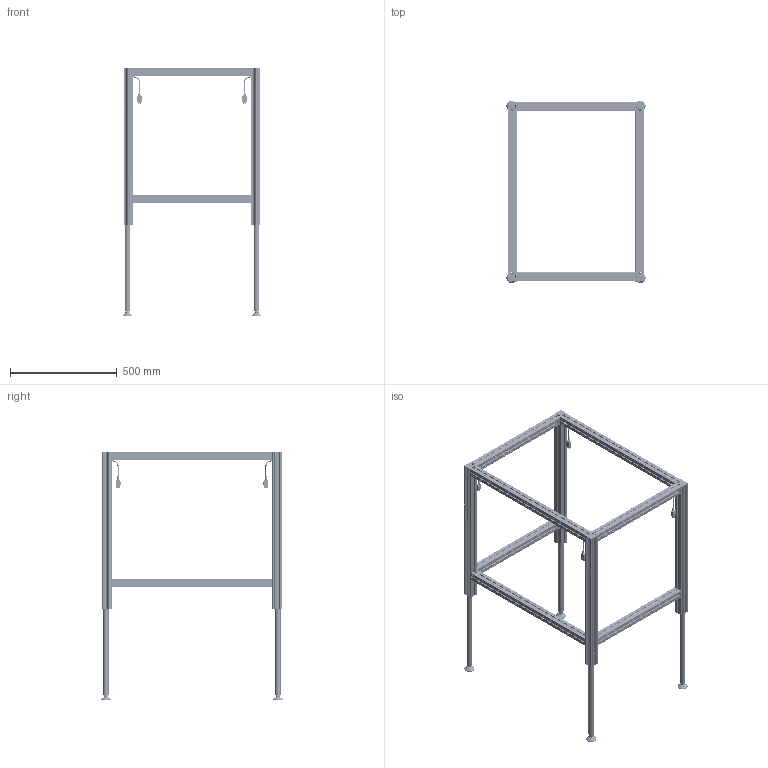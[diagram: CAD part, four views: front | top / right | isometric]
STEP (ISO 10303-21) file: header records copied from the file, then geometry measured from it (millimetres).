
FILE_DESCRIPTION(/* description */ ('Unknown'),/* implementation_level */ '2;1');
FILE_NAME(/* name */ 'Untergestell SQ.3 4340 795 XX XX_00-Ausgefahren',/* time_stamp */ '2022-02-04T13:25:58+01:00',/* author */ ('Unknown'),/* organization */ ('Unknown'),/* preprocessor_version */ 'ST-DEVELOPER v18.1',/* originating_system */ 'Solid Edge',/* authorisation */ 'Unknown');
FILE_SCHEMA (('AUTOMOTIVE_DESIGN {1 0 10303 214 3 1 1}'));
Products named in the file (21): Untergestell SQ.3 4340 795 XX XX; 907.02004_oa_0; 142.00014; 119.00501; 122.00005; 142.00020; 123.00111; 125.00051; 128.00040; Kabel Molex; 907.02004_oa_1; 115.00100; 119.00190; 142.00210; 113.00006; 113.00006-ohne Mutter; Mutter M10; 907.02004_oa_2; 907.02004_oa_3; 115.00101; 119.00191
Assembly tree (79 placements, depth 3):
  Untergestell SQ.3 4340 795 XX XX
    907.02004_oa_0
      142.00014  x4
      119.00501
      122.00005
      142.00020  x4
      123.00111
      125.00051
      128.00040
      Kabel Molex
    907.02004_oa_1
      142.00014  x4
      119.00501
      122.00005
      142.00020  x4
      123.00111
      125.00051
      128.00040
      Kabel Molex
    115.00100  x4
      119.00190
      142.00210
    113.00006  x4
      113.00006-ohne Mutter
      Mutter M10
    907.02004_oa_2
      142.00014  x4
      119.00501
      122.00005
      142.00020  x4
      123.00111
      125.00051
      128.00040
      Kabel Molex
    907.02004_oa_3
      142.00014  x4
      119.00501
      122.00005
      142.00020  x4
      123.00111
      125.00051
      128.00040
      Kabel Molex
    115.00101  x3
      119.00191
      142.00210
Bounding box: 651 x 851 x 1163 mm (x, y, z)
Volume: 5886873.8 mm3; surface area: 4276789.5 mm2
Topology: 99 solids, 99 shells, 13892 faces, 39146 edges, 25572 vertices
Faces by surface type: plane 7616, cylinder 4786, bspline 700, cone 310, torus 306, sphere 174
Full cylindrical faces by diameter (mm): 2.5 x52, 3 x16, 4 x48, 5 x40, 6.647 x4, 7.8 x14, 8.376 x12, 9.5 x4, 10 x4, 11.3 x14, 11.5 x14, 12 x14, 12.2 x14, 13.5 x14, 15 x4, 17.3 x4, 18 x28, 18.1 x14, 19 x8, 20.8 x12, 21 x8, 25 x12, 29 x4, 30 x8, 35 x4, 39 x4, 47 x4
Entity records: 120083 total; most frequent: CARTESIAN_POINT 27187, ORIENTED_EDGE 19200, DIRECTION 17815, EDGE_CURVE 9600, VERTEX_POINT 6349, AXIS2_PLACEMENT_3D 5949, LINE 5917, VECTOR 5917
